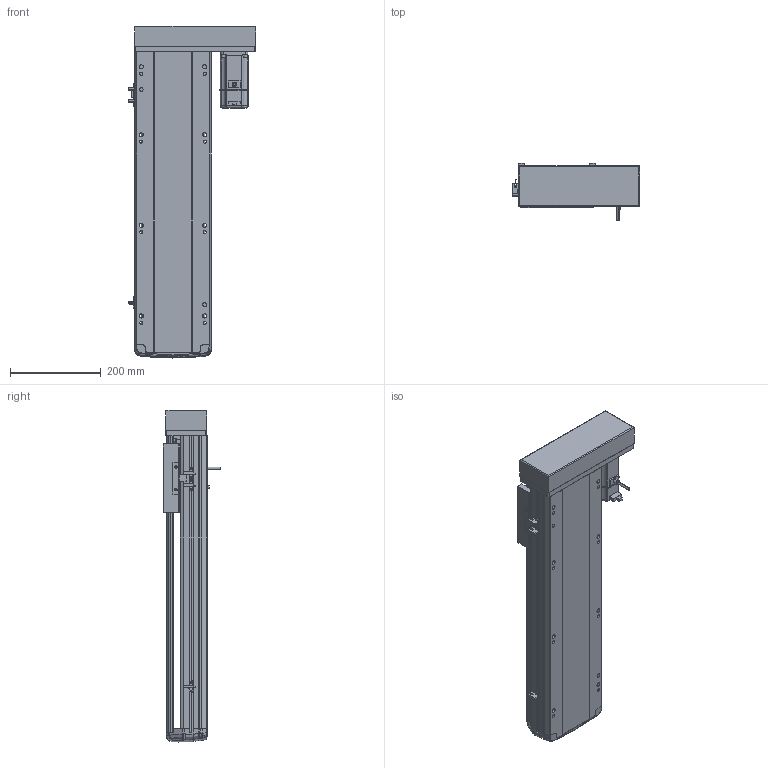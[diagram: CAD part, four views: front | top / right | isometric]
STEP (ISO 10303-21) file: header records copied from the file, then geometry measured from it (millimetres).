
FILE_DESCRIPTION (( 'STEP AP214' ), '1' );
FILE_NAME ('RTH17-XX-450-L-M40-C4.STEP', '2025-10-24T08:45:21', ( '' ), ( '' ), 'SwSTEP 2.0', 'SolidWorks 2018', '' );
FILE_SCHEMA (( 'AUTOMOTIVE_DESIGN' ));
Length unit declared in the file: millimetre
Products named in the file (10): RTH17-XX-450-L-M40-C4; N_RTH17-M-011底座^RTH17-XX-XX-L-M40-C4（方程式）; N_RTH17-L-018盖子^RTH17-XX-XX-L-M40-C4（方程式）; N_OMRON EE-SX672 換覜ん^RTH17-XX-XX-L-M40-C4ㄗ源最宒ㄘ; N_RTH17-L-008-P40电机安装板左转折^RTH17-XX-XX-L-M40-C4（方程式）; N_M40^RTH17-XX-XX-L-M40-C4（方程式）; N_RTH17-M-007上盖^RTH17-XX-XX-L-M40-C4（方程式）; N_RTH-BL-012 感应片(外置)^RTH17-XX-XX-L-M40-C4（方程式）; N_RTH17-GY-001P^RTH17-XX-XX-L-M40-C4（方程式）; N_RTH17-E-004丝杆螺母连接座^RTH17-XX-XX-L-M40-C4（方程式）
Assembly tree (11 placements, depth 2):
  RTH17-XX-450-L-M40-C4
    N_RTH17-M-011底座^RTH17-XX-XX-L-M40-C4（方程式）
    N_RTH17-M-007上盖^RTH17-XX-XX-L-M40-C4（方程式）
    N_M40^RTH17-XX-XX-L-M40-C4（方程式）
    N_OMRON EE-SX672 換覜ん^RTH17-XX-XX-L-M40-C4ㄗ源最宒ㄘ  x3
    N_RTH-BL-012 感应片(外置)^RTH17-XX-XX-L-M40-C4（方程式）
    N_RTH17-L-008-P40电机安装板左转折^RTH17-XX-XX-L-M40-C4（方程式）
    N_RTH17-L-018盖子^RTH17-XX-XX-L-M40-C4（方程式）
    N_RTH17-E-004丝杆螺母连接座^RTH17-XX-XX-L-M40-C4（方程式）
    N_RTH17-GY-001P^RTH17-XX-XX-L-M40-C4（方程式）
Bounding box: 281 x 127 x 733.07 mm (x, y, z)
Volume: 7055827.6 mm3; surface area: 913192.9 mm2
Topology: 13 solids, 15 shells, 1631 faces, 4521 edges, 2946 vertices
Faces by surface type: plane 831, cylinder 433, bspline 330, cone 28, torus 9
Entity records: 47114 total; most frequent: CARTESIAN_POINT 19127, ORIENTED_EDGE 6066, DIRECTION 4999, EDGE_CURVE 3037, VERTEX_POINT 1982, LINE 1729, VECTOR 1729, AXIS2_PLACEMENT_3D 1635
